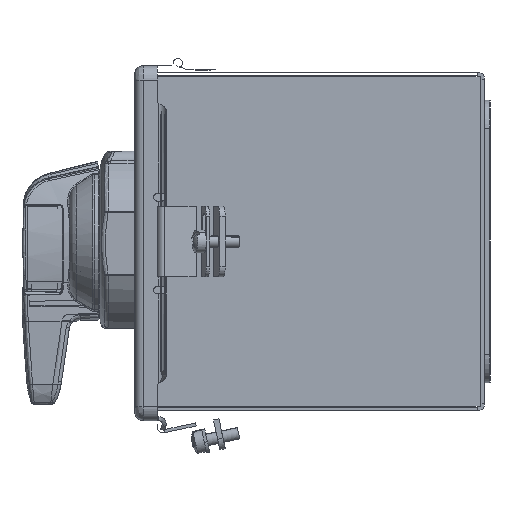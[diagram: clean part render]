
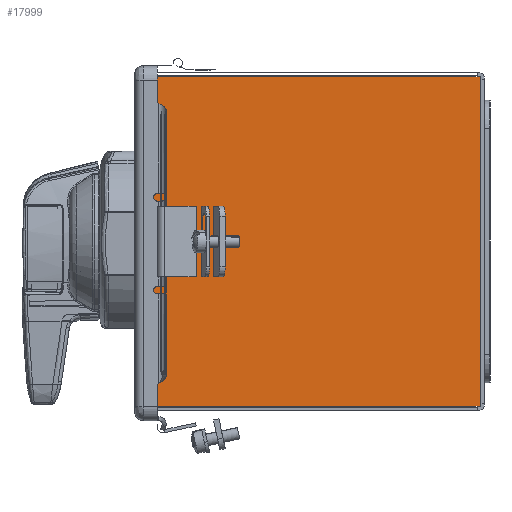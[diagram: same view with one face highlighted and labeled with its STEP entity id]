
A CAD part, left-side view. The second image highlights one B-rep face of the part: STEP entity #17999.
In plain terms, the highlighted planar face has unit normal (-1, 0, 0).
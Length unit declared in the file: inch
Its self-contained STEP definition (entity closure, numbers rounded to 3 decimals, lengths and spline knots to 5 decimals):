
#17850=DIRECTION('',(0.,0.,1.));
#17851=VECTOR('',#17850,0.32);
#17852=CARTESIAN_POINT('',(-11.40789,3.24486,
2.80777));
#17853=LINE('',#17852,#17851);
#17857=DIRECTION('',(0.,-1.,0.));
#17858=VECTOR('',#17857,0.045);
#17859=CARTESIAN_POINT('',(-11.40789,3.24486,
3.12777));
#17860=LINE('',#17859,#17858);
#17864=DIRECTION('',(0.,0.,1.));
#17865=VECTOR('',#17864,5.192);
#17866=CARTESIAN_POINT('',(-11.40789,3.19986,
3.12777));
#17867=LINE('',#17866,#17865);
#17871=DIRECTION('',(0.,1.,0.));
#17872=VECTOR('',#17871,0.045);
#17873=CARTESIAN_POINT('',(-11.40789,3.19986,
8.31977));
#17874=LINE('',#17873,#17872);
#17878=DIRECTION('',(0.,0.,1.));
#17879=VECTOR('',#17878,0.32);
#17880=CARTESIAN_POINT('',(-11.40789,3.24486,
8.31977));
#17881=LINE('',#17880,#17879);
#17885=DIRECTION('',(0.,1.,0.));
#17886=VECTOR('',#17885,5.832);
#17887=CARTESIAN_POINT('',(-11.40789,-2.58714,
8.63977));
#17888=LINE('',#17887,#17886);
#17892=DIRECTION('',(0.,0.,-1.));
#17893=VECTOR('',#17892,5.832);
#17894=CARTESIAN_POINT('',(-11.40789,-2.58714,
8.63977));
#17895=LINE('',#17894,#17893);
#17899=DIRECTION('',(0.,1.,0.));
#17900=VECTOR('',#17899,5.832);
#17901=CARTESIAN_POINT('',(-11.40789,-2.58714,
2.80777));
#17902=LINE('',#17901,#17900);
#17910=CARTESIAN_POINT('',(-11.40789,3.19986,
3.12777));
#17911=CARTESIAN_POINT('',(-11.40789,3.24486,
3.12777));
#17912=VERTEX_POINT('',#17910);
#17913=VERTEX_POINT('',#17911);
#17916=CARTESIAN_POINT('',(-11.40789,3.24486,
8.31977));
#17917=CARTESIAN_POINT('',(-11.40789,3.19986,
8.31977));
#17918=VERTEX_POINT('',#17916);
#17919=VERTEX_POINT('',#17917);
#17930=CARTESIAN_POINT('',(-11.40789,-2.58714,
2.80777));
#17931=CARTESIAN_POINT('',(-11.40789,-2.58714,
8.63977));
#17932=VERTEX_POINT('',#17930);
#17933=VERTEX_POINT('',#17931);
#17934=CARTESIAN_POINT('',(-11.40789,3.24486,
8.63977));
#17935=VERTEX_POINT('',#17934);
#17936=CARTESIAN_POINT('',(-11.40789,3.24486,
2.80777));
#17937=VERTEX_POINT('',#17936);
#17977=CARTESIAN_POINT('',(-11.40789,3.32886,
8.65477));
#17978=DIRECTION('',(1.,0.,0.));
#17979=DIRECTION('',(0.,0.,-1.));
#17980=AXIS2_PLACEMENT_3D('',#17977,#17978,#17979);
#17981=PLANE('',#17980);
#17983=ORIENTED_EDGE('',*,*,#17982,.T.);
#17985=ORIENTED_EDGE('',*,*,#17984,.T.);
#17987=ORIENTED_EDGE('',*,*,#17986,.T.);
#17989=ORIENTED_EDGE('',*,*,#17988,.T.);
#17991=ORIENTED_EDGE('',*,*,#17990,.T.);
#17992=ORIENTED_EDGE('',*,*,#17969,.F.);
#17994=ORIENTED_EDGE('',*,*,#17993,.T.);
#17996=ORIENTED_EDGE('',*,*,#17995,.T.);
#17997=EDGE_LOOP('',(#17983,#17985,#17987,#17989,#17991,#17992,#17994,#17996));
#17998=FACE_OUTER_BOUND('',#17997,.F.);
#17969=EDGE_CURVE('',#17933,#17935,#17888,.T.);
#17982=EDGE_CURVE('',#17937,#17913,#17853,.T.);
#17984=EDGE_CURVE('',#17913,#17912,#17860,.T.);
#17986=EDGE_CURVE('',#17912,#17919,#17867,.T.);
#17988=EDGE_CURVE('',#17919,#17918,#17874,.T.);
#17990=EDGE_CURVE('',#17918,#17935,#17881,.T.);
#17993=EDGE_CURVE('',#17933,#17932,#17895,.T.);
#17995=EDGE_CURVE('',#17932,#17937,#17902,.T.);
#17999=ADVANCED_FACE('',(#17998),#17981,.F.);
